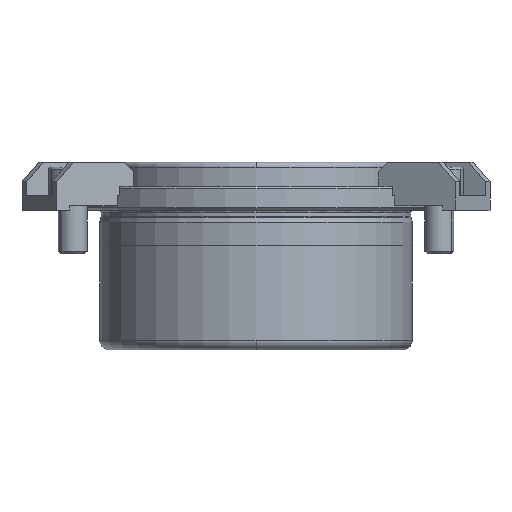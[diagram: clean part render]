
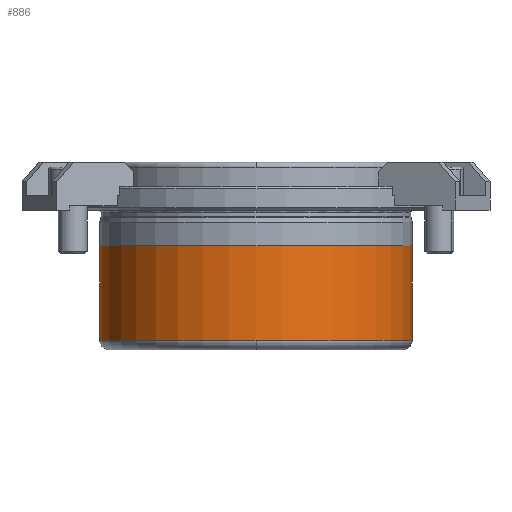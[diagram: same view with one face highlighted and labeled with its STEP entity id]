
A CAD part, front view. The second image highlights one B-rep face of the part: STEP entity #886.
In plain terms, the highlighted cylindrical face has radius 32.494 mm (diameter 64.988 mm), a partial arc.
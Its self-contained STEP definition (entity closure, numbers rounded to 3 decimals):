
#836=CARTESIAN_POINT('',(0.0,0.,-17.2));
#837=DIRECTION('',(0.0,0.,1.0));
#838=DIRECTION('',(1.0,0.0,0.0));
#839=AXIS2_PLACEMENT_3D('',#836,#837,#838);
#840=CYLINDRICAL_SURFACE('',#839,32.494);
#841=CARTESIAN_POINT('',(32.494,0.,-7.4));
#842=VERTEX_POINT('',#841);
#843=CARTESIAN_POINT('',(32.494,0.,-27.0));
#844=VERTEX_POINT('',#843);
#845=CARTESIAN_POINT('',(32.494,0.,-7.4));
#846=DIRECTION('',(0.0,0.0,-1.0));
#847=VECTOR('',#846,19.6);
#848=LINE('',#845,#847);
#849=EDGE_CURVE('',#842,#844,#848,.T.);
#850=ORIENTED_EDGE('',*,*,#849,.F.);
#851=CARTESIAN_POINT('',(-32.494,0.,-7.4));
#852=VERTEX_POINT('',#851);
#853=CARTESIAN_POINT('',(0.0,0.,-7.4));
#854=DIRECTION('',(0.0,0.0,1.0));
#855=DIRECTION('',(1.0,0.0,0.0));
#856=AXIS2_PLACEMENT_3D('',#853,#854,#855);
#857=CIRCLE('',#856,32.494);
#858=EDGE_CURVE('',#852,#842,#857,.T.);
#859=ORIENTED_EDGE('',*,*,#858,.F.);
#860=CARTESIAN_POINT('',(-32.494,0.,-27.));
#861=VERTEX_POINT('',#860);
#862=CARTESIAN_POINT('',(-32.494,0.,-7.4));
#863=DIRECTION('',(0.0,0.0,-1.0));
#864=VECTOR('',#863,19.6);
#865=LINE('',#862,#864);
#866=EDGE_CURVE('',#852,#861,#865,.T.);
#867=ORIENTED_EDGE('',*,*,#866,.T.);
#868=CARTESIAN_POINT('',(0.0,-32.494,-27.));
#869=VERTEX_POINT('',#868);
#870=CARTESIAN_POINT('',(0.0,0.,-27.0));
#871=DIRECTION('',(0.0,0.0,1.0));
#872=DIRECTION('',(1.0,0.0,0.0));
#873=AXIS2_PLACEMENT_3D('',#870,#871,#872);
#874=CIRCLE('',#873,32.494);
#875=EDGE_CURVE('',#861,#869,#874,.T.);
#876=ORIENTED_EDGE('',*,*,#875,.T.);
#877=CARTESIAN_POINT('',(0.0,0.,-27.0));
#878=DIRECTION('',(0.0,0.0,1.0));
#879=DIRECTION('',(1.0,0.0,0.0));
#880=AXIS2_PLACEMENT_3D('',#877,#878,#879);
#881=CIRCLE('',#880,32.494);
#882=EDGE_CURVE('',#869,#844,#881,.T.);
#883=ORIENTED_EDGE('',*,*,#882,.T.);
#884=EDGE_LOOP('',(#850,#859,#867,#876,#883));
#885=FACE_OUTER_BOUND('',#884,.T.);
#886=ADVANCED_FACE('',(#885),#840,.T.);
